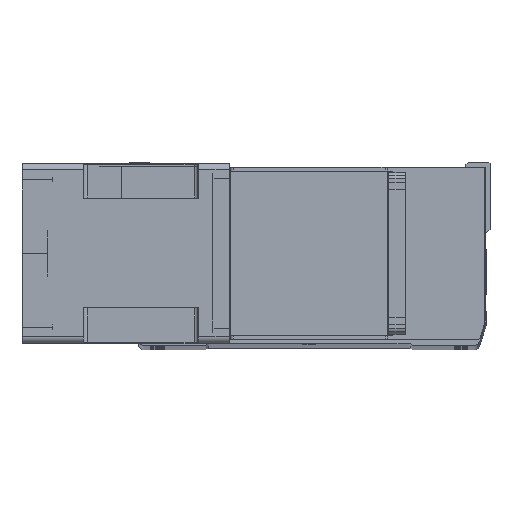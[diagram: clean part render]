
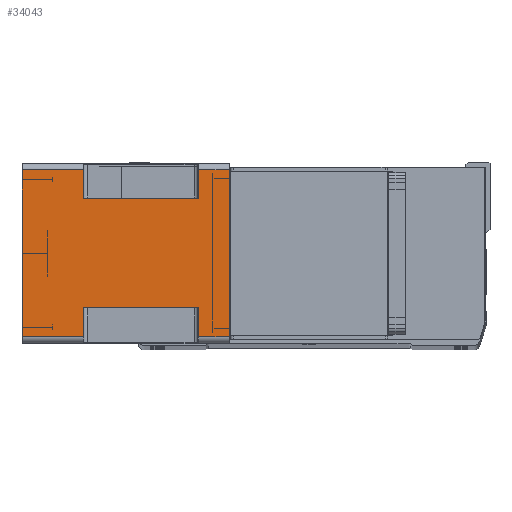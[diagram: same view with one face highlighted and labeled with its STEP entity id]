
A CAD part, top view. The second image highlights one B-rep face of the part: STEP entity #34043.
In plain terms, the highlighted planar face has unit normal (0, 0, 1) as drawn and (-1, 0, 0) by its records, which use the part's own axes.
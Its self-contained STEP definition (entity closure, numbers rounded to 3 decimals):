
#496 = LINE ( 'NONE', #42817, #24878 ) ;
#534 = CARTESIAN_POINT ( 'NONE',  ( -71., 66., -164. ) ) ;
#940 = ORIENTED_EDGE ( 'NONE', *, *, #20626, .T. ) ;
#1020 = VECTOR ( 'NONE', #42891, 1000. ) ;
#1034 = EDGE_CURVE ( 'NONE', #11831, #30104, #7865, .T. ) ;
#2870 = CARTESIAN_POINT ( 'NONE',  ( -71., -43., -164. ) ) ;
#3929 = CARTESIAN_POINT ( 'NONE',  ( -71., 66., -115.5 ) ) ;
#4390 = CARTESIAN_POINT ( 'NONE',  ( -71., -43., -115.5 ) ) ;
#4526 = VECTOR ( 'NONE', #28841, 1000. ) ;
#5154 = CARTESIAN_POINT ( 'NONE',  ( -71., 43., -115.5 ) ) ;
#6271 = DIRECTION ( 'NONE',  ( 0., 0., -1. ) ) ;
#6707 = LINE ( 'NONE', #32501, #18829 ) ;
#6914 = EDGE_CURVE ( 'NONE', #30104, #32949, #496, .T. ) ;
#7403 = CARTESIAN_POINT ( 'NONE',  ( -71., -43., -115.5 ) ) ;
#7865 = LINE ( 'NONE', #534, #4526 ) ;
#8083 = ORIENTED_EDGE ( 'NONE', *, *, #20013, .F. ) ;
#8437 = EDGE_CURVE ( 'NONE', #24558, #32949, #13641, .T. ) ;
#9588 = VERTEX_POINT ( 'NONE', #15232 ) ;
#9743 = CARTESIAN_POINT ( 'NONE',  ( -71., -66., -164. ) ) ;
#9921 = ORIENTED_EDGE ( 'NONE', *, *, #32251, .T. ) ;
#10239 = PLANE ( 'NONE',  #33401 ) ;
#10338 = EDGE_CURVE ( 'NONE', #28728, #9588, #32148, .T. ) ;
#10486 = LINE ( 'NONE', #43340, #1020 ) ;
#10606 = DIRECTION ( 'NONE',  ( 0., 0., 1. ) ) ;
#11718 = VECTOR ( 'NONE', #32847, 1000. ) ;
#11831 = VERTEX_POINT ( 'NONE', #23852 ) ;
#13537 = ORIENTED_EDGE ( 'NONE', *, *, #6914, .F. ) ;
#13641 = LINE ( 'NONE', #41567, #40801 ) ;
#13783 = CARTESIAN_POINT ( 'NONE',  ( -71., -66., -164. ) ) ;
#14293 = ORIENTED_EDGE ( 'NONE', *, *, #22721, .T. ) ;
#15232 = CARTESIAN_POINT ( 'NONE',  ( -71., 43., -24.5 ) ) ;
#15683 = CARTESIAN_POINT ( 'NONE',  ( -71., -66., -115.5 ) ) ;
#15909 = VECTOR ( 'NONE', #26347, 1000. ) ;
#17053 = VERTEX_POINT ( 'NONE', #3929 ) ;
#17334 = DIRECTION ( 'NONE',  ( 0., -1., 0. ) ) ;
#18109 = LINE ( 'NONE', #15683, #15909 ) ;
#18231 = CARTESIAN_POINT ( 'NONE',  ( -71., -66., -115.5 ) ) ;
#18829 = VECTOR ( 'NONE', #28137, 1000. ) ;
#20013 = EDGE_CURVE ( 'NONE', #24013, #33713, #35472, .T. ) ;
#20263 = DIRECTION ( 'NONE',  ( -1., 0., 0. ) ) ;
#20626 = EDGE_CURVE ( 'NONE', #24013, #24558, #6707, .T. ) ;
#21539 = CARTESIAN_POINT ( 'NONE',  ( -71., -66., 0. ) ) ;
#21586 = LINE ( 'NONE', #32259, #38730 ) ;
#22713 = VERTEX_POINT ( 'NONE', #18231 ) ;
#22721 = EDGE_CURVE ( 'NONE', #41910, #40354, #45194, .T. ) ;
#23299 = EDGE_CURVE ( 'NONE', #11831, #9588, #21586, .T. ) ;
#23852 = CARTESIAN_POINT ( 'NONE',  ( -71., 66., -24.5 ) ) ;
#24013 = VERTEX_POINT ( 'NONE', #27037 ) ;
#24050 = CARTESIAN_POINT ( 'NONE',  ( -71., 43., -164. ) ) ;
#24558 = VERTEX_POINT ( 'NONE', #45046 ) ;
#24624 = CARTESIAN_POINT ( 'NONE',  ( -71., 66., -164. ) ) ;
#24878 = VECTOR ( 'NONE', #42355, 1000. ) ;
#24942 = LINE ( 'NONE', #4390, #11718 ) ;
#26347 = DIRECTION ( 'NONE',  ( 0., 1., 0. ) ) ;
#27037 = CARTESIAN_POINT ( 'NONE',  ( -71., -43., -24.5 ) ) ;
#28137 = DIRECTION ( 'NONE',  ( 0., -1., 0. ) ) ;
#28704 = EDGE_CURVE ( 'NONE', #28728, #17053, #18109, .T. ) ;
#28728 = VERTEX_POINT ( 'NONE', #5154 ) ;
#28841 = DIRECTION ( 'NONE',  ( 0., 0., 1. ) ) ;
#30104 = VERTEX_POINT ( 'NONE', #44118 ) ;
#30591 = ORIENTED_EDGE ( 'NONE', *, *, #1034, .F. ) ;
#30882 = DIRECTION ( 'NONE',  ( 0., 0., 1. ) ) ;
#30964 = EDGE_CURVE ( 'NONE', #22713, #33713, #24942, .T. ) ;
#31873 = CARTESIAN_POINT ( 'NONE',  ( -71., -66., -164. ) ) ;
#32148 = LINE ( 'NONE', #24050, #37139 ) ;
#32251 = EDGE_CURVE ( 'NONE', #40354, #22713, #10486, .T. ) ;
#32259 = CARTESIAN_POINT ( 'NONE',  ( -71., 43., -24.5 ) ) ;
#32501 = CARTESIAN_POINT ( 'NONE',  ( -71., -66., -24.5 ) ) ;
#32847 = DIRECTION ( 'NONE',  ( 0., 1., 0. ) ) ;
#32949 = VERTEX_POINT ( 'NONE', #21539 ) ;
#33057 = EDGE_CURVE ( 'NONE', #41910, #17053, #41306, .T. ) ;
#33401 = AXIS2_PLACEMENT_3D ( 'NONE', #13783, #20263, #17334 ) ;
#33665 = ORIENTED_EDGE ( 'NONE', *, *, #23299, .T. ) ;
#33713 = VERTEX_POINT ( 'NONE', #7403 ) ;
#34043 = ADVANCED_FACE ( 'NONE', ( #41753 ), #10239, .T. ) ;
#35472 = LINE ( 'NONE', #2870, #36614 ) ;
#35662 = VECTOR ( 'NONE', #38994, 1000. ) ;
#36475 = ORIENTED_EDGE ( 'NONE', *, *, #33057, .F. ) ;
#36614 = VECTOR ( 'NONE', #6271, 1000. ) ;
#37139 = VECTOR ( 'NONE', #30882, 1000. ) ;
#38099 = ORIENTED_EDGE ( 'NONE', *, *, #28704, .T. ) ;
#38162 = ORIENTED_EDGE ( 'NONE', *, *, #10338, .F. ) ;
#38730 = VECTOR ( 'NONE', #39238, 1000. ) ;
#38994 = DIRECTION ( 'NONE',  ( 0., -1., 0. ) ) ;
#39238 = DIRECTION ( 'NONE',  ( 0., -1., 0. ) ) ;
#39328 = ORIENTED_EDGE ( 'NONE', *, *, #8437, .T. ) ;
#39575 = EDGE_LOOP ( 'NONE', ( #9921, #44718, #8083, #940, #39328, #13537, #30591, #33665, #38162, #38099, #36475, #14293 ) ) ;
#40354 = VERTEX_POINT ( 'NONE', #9743 ) ;
#40767 = VECTOR ( 'NONE', #10606, 1000. ) ;
#40801 = VECTOR ( 'NONE', #44835, 1000. ) ;
#41306 = LINE ( 'NONE', #24624, #40767 ) ;
#41567 = CARTESIAN_POINT ( 'NONE',  ( -71., -66., -164. ) ) ;
#41585 = CARTESIAN_POINT ( 'NONE',  ( -71., 66., -164. ) ) ;
#41753 = FACE_OUTER_BOUND ( 'NONE', #39575, .T. ) ;
#41910 = VERTEX_POINT ( 'NONE', #41585 ) ;
#42355 = DIRECTION ( 'NONE',  ( 0., -1., 0. ) ) ;
#42817 = CARTESIAN_POINT ( 'NONE',  ( -71., -66., 0. ) ) ;
#42891 = DIRECTION ( 'NONE',  ( 0., 0., 1. ) ) ;
#43340 = CARTESIAN_POINT ( 'NONE',  ( -71., -66., -164. ) ) ;
#44118 = CARTESIAN_POINT ( 'NONE',  ( -71., 66., 0. ) ) ;
#44718 = ORIENTED_EDGE ( 'NONE', *, *, #30964, .T. ) ;
#44835 = DIRECTION ( 'NONE',  ( 0., 0., 1. ) ) ;
#45046 = CARTESIAN_POINT ( 'NONE',  ( -71., -66., -24.5 ) ) ;
#45194 = LINE ( 'NONE', #31873, #35662 ) ;
